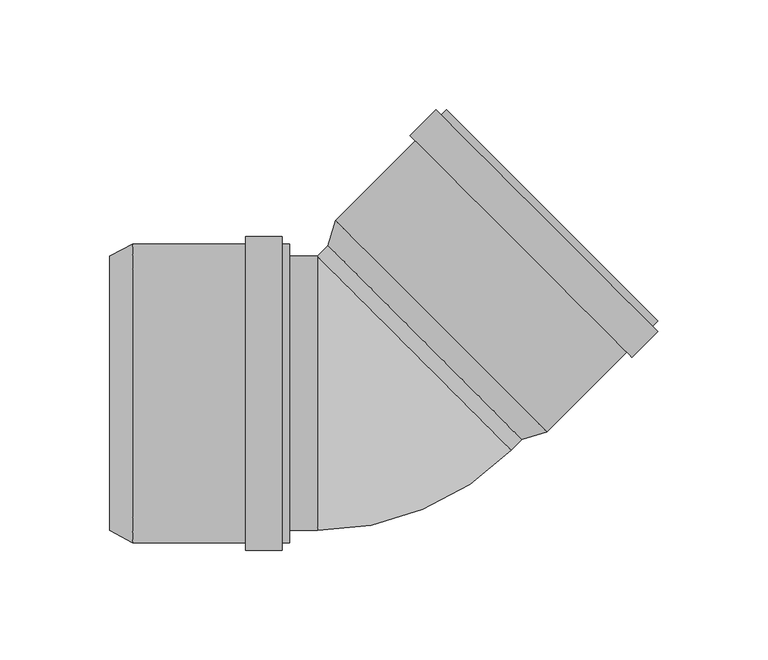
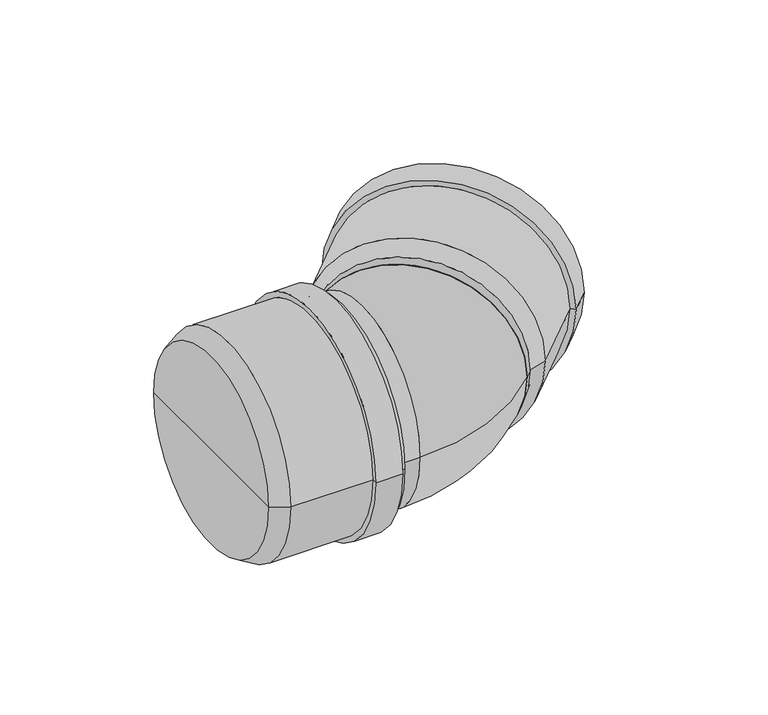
"""IFC4 building model written with IfcOpenShell, lengths in millimetres: pipe fitting geometry, pf_HTB : pf_HTB."""

from ifc_helpers import new_model, si_unit, point, frame, origin, origin_2d, place, context, project, spatial, polyline, circle_curve, ellipse_curve, trimmed, segment, composite_curve, outline, extrude, source, transform, mapped, element, save
from ifc_brep_helpers import plane_surface, cylinder_surface, revolved_surface, advanced_brep


def pipe_fitting_e6752ab2(model_context):
    return source(origin(), model_context, "Body", "SolidModel", [
        advanced_brep(
        [(67.3165656, -21.0717821, 0.0), (-21.0717821, 67.3165656, 0.0), (-17.6069589, 78.7009847, 0.0), (78.7009847, -17.6069589, 0.0), (23.1223917, 23.1223917, 0.0), (129.2591196, 32.951176, 0.0), (32.951176, 129.2591196, 0.0), (36.910974, 125.2993216, 0.0), (125.2993216, 36.910974, 0.0), (126.8549565, 30.5470129, 0.0), (30.5470129, 126.8549565, 0.0), (129.2591196, 28.1428499, 0.0), (28.1428499, 129.2591196, 0.0), (117.521147, 16.4048773, 0.0), (16.4048773, 117.521147, 0.0), (115.116984, 18.8090404, 0.0), (18.8090404, 115.116984, 0.0), (74.7411868, -13.6471609, 0.0), (-13.6471609, 74.7411868, 0.0), (30.5470129, 30.5470129, 0.0)],
        [
            (0, 1, circle_curve(frame((23.1223917, 23.1223917, 0.0), z_axis=(0.7071067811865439, 0.7071067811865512, 0.0), x_axis=(-0.7071067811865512, 0.7071067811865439, 0.0)), 62.5)),
            (1, 2),
            (2, 3, circle_curve(frame((30.5470129, 30.5470129, 0.0), z_axis=(-0.7071067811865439, -0.7071067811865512, 0.0), x_axis=(-0.7071067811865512, 0.7071067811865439, 0.0)), 68.1)),
            (3, 0),
            (1, 0, circle_curve(frame((23.1223917, 23.1223917, 0.0), z_axis=(0.7071067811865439, 0.7071067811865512, 0.0), x_axis=(-0.7071067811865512, 0.7071067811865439, 0.0)), 62.5)),
            (3, 2, circle_curve(frame((30.5470129, 30.5470129, 0.0), z_axis=(-0.7071067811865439, -0.7071067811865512, 0.0), x_axis=(-0.7071067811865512, 0.7071067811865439, 0.0)), 68.1)),
            (4, 1),
            (0, 4),
            (5, 6, circle_curve(frame((81.1051478, 81.1051478, 0.0), z_axis=(0.7071067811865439, 0.7071067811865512, 0.0), x_axis=(-0.7071067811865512, 0.7071067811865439, 0.0)), 68.1)),
            (6, 7),
            (7, 8, circle_curve(frame((81.1051478, 81.1051478, 0.0), z_axis=(-0.7071067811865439, -0.7071067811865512, 0.0), x_axis=(-0.7071067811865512, 0.7071067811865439, 0.0)), 62.5)),
            (8, 5),
            (6, 5, circle_curve(frame((81.1051478, 81.1051478, 0.0), z_axis=(0.7071067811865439, 0.7071067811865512, 0.0), x_axis=(-0.7071067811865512, 0.7071067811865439, 0.0)), 68.1)),
            (8, 7, circle_curve(frame((81.1051478, 81.1051478, 0.0), z_axis=(-0.7071067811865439, -0.7071067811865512, 0.0), x_axis=(-0.7071067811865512, 0.7071067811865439, 0.0)), 62.5)),
            (9, 10, circle_curve(frame((78.7009847, 78.7009847, 0.0), z_axis=(0.7071067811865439, 0.7071067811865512, 0.0), x_axis=(-0.7071067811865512, 0.7071067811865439, 0.0)), 68.1)),
            (10, 6),
            (5, 9),
            (10, 9, circle_curve(frame((78.7009847, 78.7009847, 0.0), z_axis=(0.7071067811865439, 0.7071067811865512, 0.0), x_axis=(-0.7071067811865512, 0.7071067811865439, 0.0)), 68.1)),
            (11, 12, circle_curve(frame((78.7009847, 78.7009847, 0.0), z_axis=(0.7071067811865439, 0.7071067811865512, 0.0), x_axis=(-0.7071067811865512, 0.7071067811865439, 0.0)), 71.5)),
            (12, 10),
            (9, 11),
            (12, 11, circle_curve(frame((78.7009847, 78.7009847, 0.0), z_axis=(0.7071067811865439, 0.7071067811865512, 0.0), x_axis=(-0.7071067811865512, 0.7071067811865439, 0.0)), 71.5)),
            (13, 14, circle_curve(frame((66.9630122, 66.9630122, 0.0), z_axis=(0.7071067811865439, 0.7071067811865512, 0.0), x_axis=(-0.7071067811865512, 0.7071067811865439, 0.0)), 71.5)),
            (14, 12),
            (11, 13),
            (14, 13, circle_curve(frame((66.9630122, 66.9630122, 0.0), z_axis=(0.7071067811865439, 0.7071067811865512, 0.0), x_axis=(-0.7071067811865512, 0.7071067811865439, 0.0)), 71.5)),
            (15, 16, circle_curve(frame((66.9630122, 66.9630122, 0.0), z_axis=(0.7071067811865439, 0.7071067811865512, 0.0), x_axis=(-0.7071067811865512, 0.7071067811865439, 0.0)), 68.1)),
            (16, 14),
            (13, 15),
            (16, 15, circle_curve(frame((66.9630122, 66.9630122, 0.0), z_axis=(0.7071067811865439, 0.7071067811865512, 0.0), x_axis=(-0.7071067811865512, 0.7071067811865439, 0.0)), 68.1)),
            (2, 16),
            (15, 3),
            (17, 18, circle_curve(frame((30.5470129, 30.5470129, 0.0), z_axis=(0.7071067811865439, 0.7071067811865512, 0.0), x_axis=(-0.7071067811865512, 0.7071067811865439, 0.0)), 62.5)),
            (18, 19),
            (19, 17),
            (18, 17, circle_curve(frame((30.5470129, 30.5470129, 0.0), z_axis=(0.7071067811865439, 0.7071067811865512, 0.0), x_axis=(-0.7071067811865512, 0.7071067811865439, 0.0)), 62.5)),
            (7, 18),
            (17, 8),
        ],
        [
            revolved_surface(polyline([(-17.6069589, 78.7009847, 0.0), (-21.0717821, 67.3165656, 0.0)]), (23.1223917, 23.1223917, 0.0), (-0.7071067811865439, -0.7071067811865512, 0.0)),
            plane_surface(frame((23.1223917, 23.1223917, 0.0), z_axis=(-0.7071067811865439, -0.7071067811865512, 0.0), x_axis=(-0.7071067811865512, 0.7071067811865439, 0.0))),
            plane_surface(frame((81.1051478, 81.1051478, 0.0), z_axis=(0.7071067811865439, 0.7071067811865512, 0.0), x_axis=(-0.7071067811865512, 0.7071067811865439, 0.0))),
            cylinder_surface(frame((23.1223917, 23.1223917, 0.0), z_axis=(-0.7071067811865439, -0.7071067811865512, 0.0), x_axis=(-0.7071067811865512, 0.7071067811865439, 0.0)), 68.1),
            plane_surface(frame((78.7009847, 78.7009847, 0.0), z_axis=(0.7071067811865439, 0.7071067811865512, 0.0), x_axis=(-0.7071067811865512, 0.7071067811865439, 0.0))),
            cylinder_surface(frame((23.1223917, 23.1223917, 0.0), z_axis=(-0.7071067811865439, -0.7071067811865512, 0.0), x_axis=(-0.7071067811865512, 0.7071067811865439, 0.0)), 71.5),
            plane_surface(frame((66.9630122, 66.9630122, 0.0), z_axis=(-0.7071067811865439, -0.7071067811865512, 0.0), x_axis=(-0.7071067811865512, 0.7071067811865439, 0.0))),
            plane_surface(frame((30.5470129, 30.5470129, 0.0), z_axis=(0.7071067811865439, 0.7071067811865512, 0.0), x_axis=(-0.7071067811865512, 0.7071067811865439, 0.0))),
            revolved_surface(polyline([(-13.64716092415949, 74.74118672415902, 0.0), (36.91097397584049, 125.29932162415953, 0.0)]), (23.1223917, 23.1223917, 0.0), (-0.7071067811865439, -0.7071067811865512, 0.0)),
        ],
        [
            (0, [[1, 2, 3, 4]]),
            (0, [[5, -4, 6, -2]]),
            (1, [[7, -1, 8]]),
            (1, [[-8, -5, -7]]),
            (2, [[9, 10, 11, 12]]),
            (2, [[13, -12, 14, -10]]),
            (3, [[15, 16, -9, 17]]),
            (3, [[18, -17, -13, -16]]),
            (4, [[19, 20, -15, 21]]),
            (4, [[22, -21, -18, -20]]),
            (5, [[23, 24, -19, 25]]),
            (5, [[26, -25, -22, -24]]),
            (6, [[27, 28, -23, 29]]),
            (6, [[30, -29, -26, -28]]),
            (3, [[-3, 31, -27, 32]]),
            (3, [[-6, -32, -30, -31]]),
            (7, [[33, 34, 35]]),
            (7, [[36, -35, -34]]),
            (8, [[-11, 37, -33, 38]]),
            (8, [[-14, -38, -36, -37]]),
        ],
    ),
        advanced_brep(
        [(-120.5, -62.5, 0.0), (-120.5, 62.5, 0.0), (-110.0, 68.1, 0.0), (-110.0, -68.1, 0.0), (-120.5, 0.0, 0.0), (-38.5, -68.1, 0.0), (-38.5, 68.1, 0.0), (-38.5, 62.5, 0.0), (-38.5, -62.5, 0.0), (-41.9, -68.1, 0.0), (-41.9, 68.1, 0.0), (-41.9, -71.5, 0.0), (-41.9, 71.5, 0.0), (-58.5, -71.5, 0.0), (-58.5, 71.5, 0.0), (-58.5, -68.1, 0.0), (-58.5, 68.1, 0.0), (-110.0, -62.5, 0.0), (-110.0, 62.5, 0.0), (-110.0, 0.0, 0.0)],
        [
            (0, 1, circle_curve(frame((-120.5, 0.0, 0.0), z_axis=(1.0, 0.0, 0.0), x_axis=(0.0, 1.0, 0.0)), 62.5)),
            (1, 2),
            (2, 3, circle_curve(frame((-110.0, 0.0, 0.0), z_axis=(-1.0, 0.0, 0.0), x_axis=(0.0, 1.0, 0.0)), 68.1)),
            (3, 0),
            (1, 0, circle_curve(frame((-120.5, 0.0, 0.0), z_axis=(1.0, 0.0, 0.0), x_axis=(0.0, 1.0, 0.0)), 62.5)),
            (3, 2, circle_curve(frame((-110.0, 0.0, 0.0), z_axis=(-1.0, 0.0, 0.0), x_axis=(0.0, 1.0, 0.0)), 68.1)),
            (4, 1),
            (0, 4),
            (5, 6, circle_curve(frame((-38.5, 0.0, 0.0), z_axis=(1.0, 0.0, 0.0), x_axis=(0.0, 1.0, 0.0)), 68.1)),
            (6, 7),
            (7, 8, circle_curve(frame((-38.5, 0.0, 0.0), z_axis=(-1.0, 0.0, 0.0), x_axis=(0.0, 1.0, 0.0)), 62.5)),
            (8, 5),
            (6, 5, circle_curve(frame((-38.5, 0.0, 0.0), z_axis=(1.0, 0.0, 0.0), x_axis=(0.0, 1.0, 0.0)), 68.1)),
            (8, 7, circle_curve(frame((-38.5, 0.0, 0.0), z_axis=(-1.0, 0.0, 0.0), x_axis=(0.0, 1.0, 0.0)), 62.5)),
            (9, 10, circle_curve(frame((-41.9, 0.0, 0.0), z_axis=(1.0, 0.0, 0.0), x_axis=(0.0, 1.0, 0.0)), 68.1)),
            (10, 6),
            (5, 9),
            (10, 9, circle_curve(frame((-41.9, 0.0, 0.0), z_axis=(1.0, 0.0, 0.0), x_axis=(0.0, 1.0, 0.0)), 68.1)),
            (11, 12, circle_curve(frame((-41.9, 0.0, 0.0), z_axis=(1.0, 0.0, 0.0), x_axis=(0.0, 1.0, 0.0)), 71.5)),
            (12, 10),
            (9, 11),
            (12, 11, circle_curve(frame((-41.9, 0.0, 0.0), z_axis=(1.0, 0.0, 0.0), x_axis=(0.0, 1.0, 0.0)), 71.5)),
            (13, 14, circle_curve(frame((-58.5, 0.0, 0.0), z_axis=(1.0, 0.0, 0.0), x_axis=(0.0, 1.0, 0.0)), 71.5)),
            (14, 12),
            (11, 13),
            (14, 13, circle_curve(frame((-58.5, 0.0, 0.0), z_axis=(1.0, 0.0, 0.0), x_axis=(0.0, 1.0, 0.0)), 71.5)),
            (15, 16, circle_curve(frame((-58.5, 0.0, 0.0), z_axis=(1.0, 0.0, 0.0), x_axis=(0.0, 1.0, 0.0)), 68.1)),
            (16, 14),
            (13, 15),
            (16, 15, circle_curve(frame((-58.5, 0.0, 0.0), z_axis=(1.0, 0.0, 0.0), x_axis=(0.0, 1.0, 0.0)), 68.1)),
            (2, 16),
            (15, 3),
            (17, 18, circle_curve(frame((-110.0, 0.0, 0.0), z_axis=(1.0, 0.0, 0.0), x_axis=(0.0, 1.0, 0.0)), 62.5)),
            (18, 19),
            (19, 17),
            (18, 17, circle_curve(frame((-110.0, 0.0, 0.0), z_axis=(1.0, 0.0, 0.0), x_axis=(0.0, 1.0, 0.0)), 62.5)),
            (7, 18),
            (17, 8),
        ],
        [
            revolved_surface(polyline([(-110.0, 68.1, 0.0), (-120.5, 62.5, 0.0)]), (-120.5, 0.0, 0.0), (-1.0, 0.0, 0.0)),
            plane_surface(frame((-120.5, 0.0, 0.0), z_axis=(-1.0, 0.0, 0.0), x_axis=(0.0, 1.0, 0.0))),
            plane_surface(frame((-38.5, 0.0, 0.0), z_axis=(1.0, 0.0, 0.0), x_axis=(0.0, 1.0, 0.0))),
            cylinder_surface(frame((-120.5, 0.0, 0.0), z_axis=(-1.0, 0.0, 0.0), x_axis=(0.0, 1.0, 0.0)), 68.1),
            plane_surface(frame((-41.9, 0.0, 0.0), z_axis=(1.0, 0.0, 0.0), x_axis=(0.0, 1.0, 0.0))),
            cylinder_surface(frame((-120.5, 0.0, 0.0), z_axis=(-1.0, 0.0, 0.0), x_axis=(0.0, 1.0, 0.0)), 71.5),
            plane_surface(frame((-58.5, 0.0, 0.0), z_axis=(-1.0, 0.0, 0.0), x_axis=(0.0, 1.0, 0.0))),
            plane_surface(frame((-110.0, 0.0, 0.0), z_axis=(1.0, 0.0, 0.0), x_axis=(0.0, 1.0, 0.0))),
            revolved_surface(polyline([(-110.0, 62.5, 0.0), (-38.5, 62.5, 0.0)]), (-120.5, 0.0, 0.0), (-1.0, 0.0, 0.0)),
        ],
        [
            (0, [[1, 2, 3, 4]]),
            (0, [[5, -4, 6, -2]]),
            (1, [[7, -1, 8]]),
            (1, [[-8, -5, -7]]),
            (2, [[9, 10, 11, 12]]),
            (2, [[13, -12, 14, -10]]),
            (3, [[15, 16, -9, 17]]),
            (3, [[18, -17, -13, -16]]),
            (4, [[19, 20, -15, 21]]),
            (4, [[22, -21, -18, -20]]),
            (5, [[23, 24, -19, 25]]),
            (5, [[26, -25, -22, -24]]),
            (6, [[27, 28, -23, 29]]),
            (6, [[30, -29, -26, -28]]),
            (3, [[-3, 31, -27, 32]]),
            (3, [[-6, -32, -30, -31]]),
            (7, [[33, 34, 35]]),
            (7, [[36, -35, -34]]),
            (8, [[-11, 37, -33, 38]]),
            (8, [[-14, -38, -36, -37]]),
        ],
    ),
        extrude(outline(composite_curve([segment(trimmed(circle_curve(origin_2d(), 62.5), [point((0.0, -62.5))], [point((0.0, 62.5))], False, "CARTESIAN"), True, "CONTINUOUS"), segment(trimmed(circle_curve(origin_2d(), 62.5), [point((0.0, 62.5))], [point((0.0, -62.5))], False, "CARTESIAN"), True, "CONTINUOUS")], self_intersect=False)), frame((18.3058262, 18.3058262, 0.0), z_axis=(0.7071067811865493, 0.7071067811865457, 0.0), x_axis=(0.0, 0.0, 1.0)), (0.0, 0.0, 1.0), 17.3116524),
        extrude(outline(composite_curve([segment(trimmed(circle_curve(origin_2d(), 62.5), [point((-62.5, 0.0))], [point((62.5, 0.0))], False, "CARTESIAN"), True, "CONTINUOUS"), segment(trimmed(circle_curve(origin_2d(), 62.5), [point((62.5, 0.0))], [point((-62.5, 0.0))], False, "CARTESIAN"), True, "CONTINUOUS")], self_intersect=False)), frame((-110.0, 0.0, 0.0), z_axis=(1.0, 0.0, 0.0), x_axis=(0.0, 1.0, 0.0)), (0.0, 0.0, 1.0), 84.1116524),
        advanced_brep(
        [(-25.8883476, -62.5, 0.0), (-25.8883476, 62.5, 0.0), (62.5, -25.8883476, 0.0)],
        [
            (0, 1, circle_curve(frame((-25.8883476, 0.0, 0.0), z_axis=(-1.0, 0.0, 0.0), x_axis=(0.0, 1.0, 0.0)), 62.5)),
            (1, 0, circle_curve(frame((-25.8883476, 0.0, 0.0), z_axis=(-1.0, 0.0, 0.0), x_axis=(0.0, 1.0, 0.0)), 62.5)),
            (2, 1, circle_curve(frame((18.3058262, 18.3058262, 0.0), z_axis=(0.7071067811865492, 0.7071067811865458, 0.0), x_axis=(-0.7071067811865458, 0.7071067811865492, 0.0)), 62.5)),
            (1, 2, circle_curve(frame((18.3058262, 18.3058262, 0.0), z_axis=(0.7071067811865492, 0.7071067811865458, 0.0), x_axis=(-0.7071067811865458, 0.7071067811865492, 0.0)), 62.5)),
            (2, 0, circle_curve(frame((-25.8883476, 62.5, 0.0), z_axis=(0.0, 0.0, -1.0), x_axis=(0.0, -1.0, 0.0)), 125.0)),
        ],
        [
            plane_surface(frame((-25.8883476, 62.5, -14.8), z_axis=(-1.0, 0.0, 0.0), x_axis=(0.0, -1.0, 0.0))),
            plane_surface(frame((-25.8883476, 62.5, -14.8), z_axis=(0.7071067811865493, 0.7071067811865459, 0.0), x_axis=(0.7071067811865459, -0.7071067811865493, 0.0))),
            revolved_surface(trimmed(ellipse_curve(frame((-25.8883476, 0.0, 0.0), z_axis=(1.0, 0.0, 0.0), x_axis=(0.0, 1.0, 0.0)), 62.5, 62.5), [point((-25.8883476, -62.5, 0.0))], [point((-25.8883476, 62.5, 0.0))], True, "CARTESIAN"), (-25.8883476, 62.5, -14.8), (0.0, 0.0, -1.0)),
            revolved_surface(trimmed(ellipse_curve(frame((-25.8883476, 0.0, 0.0), z_axis=(1.0, 0.0, 0.0), x_axis=(0.0, 1.0, 0.0)), 62.5, 62.5), [point((-25.8883476, 62.5, 0.0))], [point((-25.8883476, -62.5, 0.0))], True, "CARTESIAN"), (-25.8883476, 62.5, -14.8), (0.0, 0.0, -1.0)),
        ],
        [
            (0, [[1, 2]]),
            (1, [[3, 4]]),
            (2, [[5, -2, -3]]),
            (3, [[-1, -5, -4]]),
        ],
    ),
    ])


if __name__ == "__main__":
    model = new_model("IFC4")
    model_context = context("Model", 3, world=origin())
    ifc_project = project(units=[si_unit("LENGTHUNIT", "METRE", prefix="MILLI")], contexts=[model_context])
    site = spatial("IfcSite", under=ifc_project)
    building = spatial("IfcBuilding", under=site)
    placement = place(None, origin())
    pipe_fitting_shape = pipe_fitting_e6752ab2(model_context)
    element("IfcPipeFitting", 1, ObjectType="pf_HTB : pf_HTB", at=placement, inside=building, context=model_context, shape_type="MappedRepresentation", body=[
        mapped(pipe_fitting_shape, transform((0.0, 0.0, 0.0), x_axis=(1.0, 0.0, 0.0), y_axis=(0.0, 1.0, 0.0), z_axis=(0.0, 0.0, 1.0))),
    ])
    save(model, "model.ifc")
